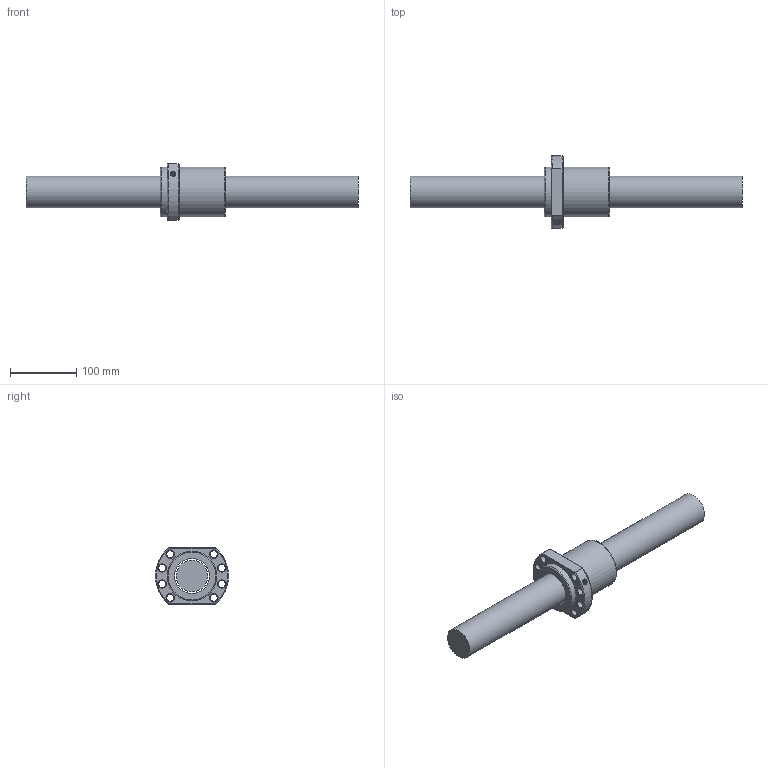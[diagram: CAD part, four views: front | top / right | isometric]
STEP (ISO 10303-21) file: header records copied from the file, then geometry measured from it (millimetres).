
FILE_DESCRIPTION (( 'STEP AP203' ), '1' );
FILE_NAME ('SFA5020-3.8.step', '2024-05-07T07:26:24', ( '' ), ( '' ), 'SwSTEP 2.0', 'SolidWorks 2022', '' );
FILE_SCHEMA (( 'CONFIG_CONTROL_DESIGN' ));
Length unit declared in the file: millimetre
Products named in the file (1): SFA5020-3.8
Bounding box: 500 x 109.65 x 85 mm (x, y, z)
Volume: 1182147.7 mm3; surface area: 135308.7 mm2
Topology: 2 solids, 2 shells, 62 faces, 148 edges, 92 vertices
Faces by surface type: cylinder 21, cone 17, plane 13, torus 6, bspline 5
Full cylindrical faces by diameter (mm): 4 x1, 7 x5, 11 x8, 48 x1, 52.3 x1, 75 x2
Entity records: 3410 total; most frequent: CARTESIAN_POINT 2197, DIRECTION 226, ORIENTED_EDGE 188, EDGE_LOOP 112, AXIS2_PLACEMENT_3D 105, EDGE_CURVE 94, VERTEX_POINT 78, FACE_OUTER_BOUND 73
